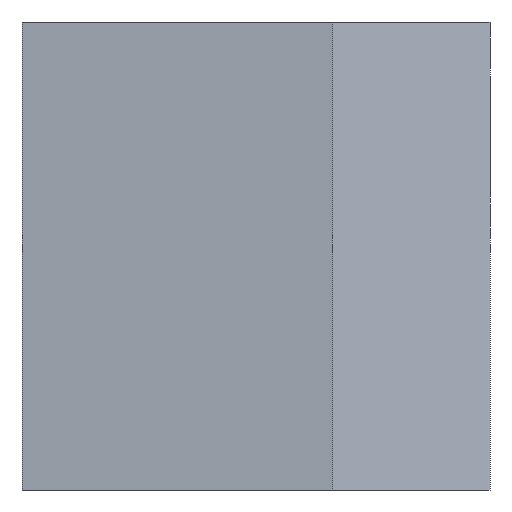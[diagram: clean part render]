
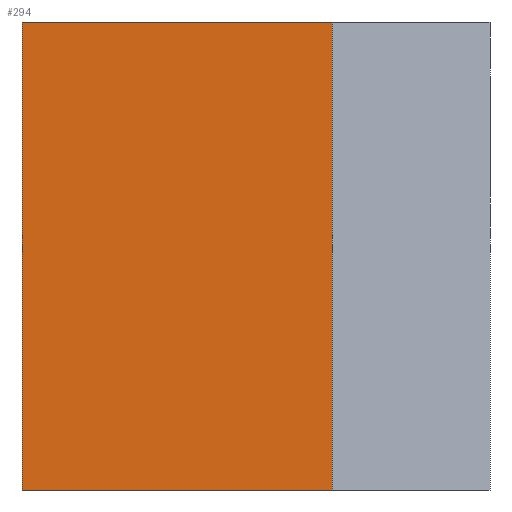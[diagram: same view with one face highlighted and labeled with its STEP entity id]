
A CAD part, front view. The second image highlights one B-rep face of the part: STEP entity #294.
In plain terms, the highlighted planar face has unit normal (0, -1, 0).
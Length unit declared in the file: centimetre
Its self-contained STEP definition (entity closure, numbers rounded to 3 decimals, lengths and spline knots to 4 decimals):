
#8 = LINE ( 'NONE', #1042, #1024 ) ;
#78 = CARTESIAN_POINT ( 'NONE',  ( 663.1431, 0., 0. ) ) ;
#132 = PLANE ( 'NONE',  #440 ) ;
#146 = CARTESIAN_POINT ( 'NONE',  ( 0., 0., 1000. ) ) ;
#166 = CARTESIAN_POINT ( 'NONE',  ( 0., 0., 1000. ) ) ;
#168 = DIRECTION ( 'NONE',  ( 1., 0., 0. ) ) ;
#222 = VERTEX_POINT ( 'NONE', #745 ) ;
#233 = DIRECTION ( 'NONE',  ( 0., 1., 0. ) ) ;
#248 = ORIENTED_EDGE ( 'NONE', *, *, #500, .F. ) ;
#254 = LINE ( 'NONE', #166, #303 ) ;
#294 = ADVANCED_FACE ( 'NONE', ( #663 ), #132, .F. ) ;
#303 = VECTOR ( 'NONE', #601, 100. ) ;
#304 = LINE ( 'NONE', #913, #496 ) ;
#373 = VERTEX_POINT ( 'NONE', #78 ) ;
#399 = VECTOR ( 'NONE', #423, 100. ) ;
#413 = VERTEX_POINT ( 'NONE', #146 ) ;
#419 = LINE ( 'NONE', #588, #399 ) ;
#423 = DIRECTION ( 'NONE',  ( 1., 0., 0. ) ) ;
#440 = AXIS2_PLACEMENT_3D ( 'NONE', #479, #233, #575 ) ;
#479 = CARTESIAN_POINT ( 'NONE',  ( 0., 0., 1000. ) ) ;
#496 = VECTOR ( 'NONE', #168, 100. ) ;
#500 = EDGE_CURVE ( 'NONE', #413, #1035, #419, .T. ) ;
#536 = EDGE_CURVE ( 'NONE', #413, #222, #254, .T. ) ;
#558 = EDGE_CURVE ( 'NONE', #1035, #373, #8, .T. ) ;
#575 = DIRECTION ( 'NONE',  ( 0., 0., 1. ) ) ;
#588 = CARTESIAN_POINT ( 'NONE',  ( 0., 0., 1000. ) ) ;
#601 = DIRECTION ( 'NONE',  ( 0., 0., -1. ) ) ;
#663 = FACE_OUTER_BOUND ( 'NONE', #910, .T. ) ;
#745 = CARTESIAN_POINT ( 'NONE',  ( 0., 0., 0. ) ) ;
#867 = CARTESIAN_POINT ( 'NONE',  ( 663.1431, 0., 1000. ) ) ;
#910 = EDGE_LOOP ( 'NONE', ( #1087, #1037, #248, #942 ) ) ;
#913 = CARTESIAN_POINT ( 'NONE',  ( 0., 0., 0. ) ) ;
#921 = EDGE_CURVE ( 'NONE', #222, #373, #304, .T. ) ;
#942 = ORIENTED_EDGE ( 'NONE', *, *, #536, .T. ) ;
#947 = DIRECTION ( 'NONE',  ( 0., 0., -1. ) ) ;
#1024 = VECTOR ( 'NONE', #947, 100. ) ;
#1035 = VERTEX_POINT ( 'NONE', #867 ) ;
#1037 = ORIENTED_EDGE ( 'NONE', *, *, #558, .F. ) ;
#1042 = CARTESIAN_POINT ( 'NONE',  ( 663.1431, 0., 0. ) ) ;
#1087 = ORIENTED_EDGE ( 'NONE', *, *, #921, .T. ) ;
